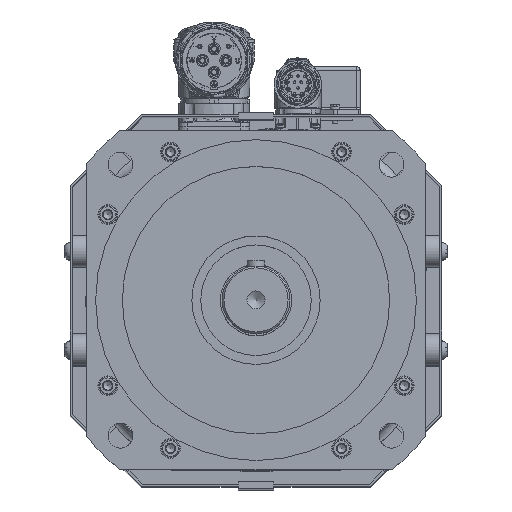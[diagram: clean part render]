
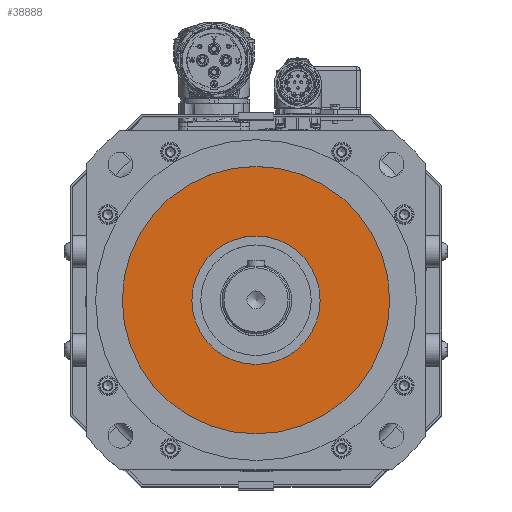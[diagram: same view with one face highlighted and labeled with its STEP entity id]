
A CAD part, top view. The second image highlights one B-rep face of the part: STEP entity #38888.
In plain terms, the highlighted planar face has unit normal (0, 0, 1).
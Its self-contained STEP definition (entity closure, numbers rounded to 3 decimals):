
#9168=FACE_BOUND('',#12578,.T.);
#9169=FACE_BOUND('',#12579,.T.);
#12578=EDGE_LOOP('',(#26976));
#12579=EDGE_LOOP('',(#26977));
#15936=CIRCLE('',#41482,36.);
#15937=CIRCLE('',#41485,75.);
#17824=VERTEX_POINT('',#56637);
#17825=VERTEX_POINT('',#56641);
#21578=EDGE_CURVE('',#17824,#17824,#15936,.T.);
#21579=EDGE_CURVE('',#17825,#17825,#15937,.T.);
#26976=ORIENTED_EDGE('',*,*,#21578,.T.);
#26977=ORIENTED_EDGE('',*,*,#21579,.F.);
#37783=PLANE('',#41487);
#38888=ADVANCED_FACE('',(#9168,#9169),#37783,.F.);
#41482=AXIS2_PLACEMENT_3D('',#56638,#45858,#45859);
#41485=AXIS2_PLACEMENT_3D('',#56642,#45864,#45865);
#41487=AXIS2_PLACEMENT_3D('',#56645,#45868,#45869);
#45858=DIRECTION('center_axis',(0.,0.,-1.));
#45859=DIRECTION('ref_axis',(-1.,0.,0.));
#45864=DIRECTION('center_axis',(0.,0.,-1.));
#45865=DIRECTION('ref_axis',(-1.,0.,0.));
#45868=DIRECTION('center_axis',(0.,0.,-1.));
#45869=DIRECTION('ref_axis',(-1.,0.,0.));
#56637=CARTESIAN_POINT('',(36.,0.,15.));
#56638=CARTESIAN_POINT('Origin',(0.,0.,15.));
#56641=CARTESIAN_POINT('',(75.,0.,15.));
#56642=CARTESIAN_POINT('Origin',(0.,0.,15.));
#56645=CARTESIAN_POINT('Origin',(0.,0.,15.));
